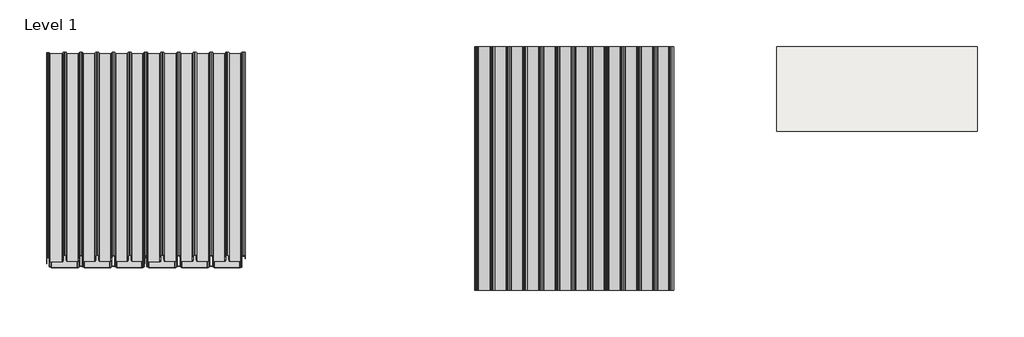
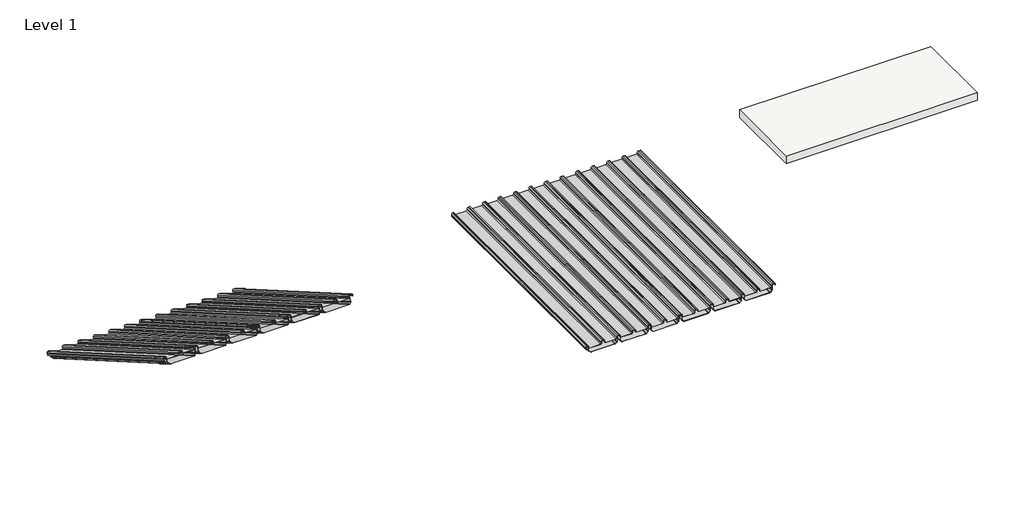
# One storey: 4 plates, 1 roof.
"""IFC4 building model written with IfcOpenShell, lengths in millimetres."""

from ifc_helpers import new_model, si_unit, origin, origin_with_axes, place, context, project, spatial, polyline, outline, extrude, transform, mapped, element, save
from components import panel_gip_flatstanding4c100x8_9774ab52, panel_gip_flatstanding4c100x8_aa8a2414, panel_gip_flatstanding4c100x8_da18e8ea

model = new_model("IFC4")

# Units and contexts
model_context = context("Model", 3, world=origin())
ifc_project = project(units=[si_unit("LENGTHUNIT", "METRE", prefix="MILLI")], contexts=[model_context])

# Site, building, storey
site = spatial("IfcSite", under=ifc_project)
building = spatial("IfcBuilding", under=site)
storey = spatial("IfcBuildingStorey", under=building, Name="Level 1", Elevation=0.0)

# Plates
placement = place(None, origin())
panel_gip_flatstanding4c100x8_shape = panel_gip_flatstanding4c100x8_9774ab52(model_context)
element("IfcPlate", 1, ObjectType="Panel_GIP_FlatStanding_4C_100X8_Exiplast : Panel GIP FlatStanding4C100X8", at=placement, inside=storey, context=model_context, shape_type="MappedRepresentation", body=[
    mapped(panel_gip_flatstanding4c100x8_shape, transform((-11547.6145179, 10196.9711751, 0.0), x_axis=(-1.0, 0.0, 0.0), y_axis=(0.0, -0.49999999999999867, -0.8660254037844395), z_axis=(0.0, -0.8660254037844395, 0.49999999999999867))),
])
panel_gip_flatstanding4c100x8_2_shape = panel_gip_flatstanding4c100x8_aa8a2414(model_context)
element("IfcPlate", 2, ObjectType="Panel_GIP_FlatStanding_4C_100X8_Exiplast : Panel GIP FlatStanding4C100X8", at=placement, inside=storey, context=model_context, shape_type="MappedRepresentation", body=[
    mapped(panel_gip_flatstanding4c100x8_2_shape, transform((-12562.1145179, 10196.9711751, 0.0), x_axis=(-1.0, 0.0, 0.0), y_axis=(0.0, -0.49999999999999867, -0.8660254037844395), z_axis=(0.0, -0.8660254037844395, 0.49999999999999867))),
])
element("IfcPlate", 3, ObjectType="Panel_GIP_FlatStanding_4C_100X8_Exiplast : Panel GIP FlatStanding4C100X8", at=placement, inside=storey, context=model_context, shape_type="MappedRepresentation", body=[
    mapped(panel_gip_flatstanding4c100x8_shape, transform((-7158.6457498, 10256.2120055, 0.0), x_axis=(-1.0, 0.0, 0.0), y_axis=(0.0, 0.0, -1.0), z_axis=(0.0, -1.0, 0.0))),
])
panel_gip_flatstanding4c100x8_3_shape = panel_gip_flatstanding4c100x8_da18e8ea(model_context)
element("IfcPlate", 4, ObjectType="Panel_GIP_FlatStanding_4C_100X8_Exiplast : Panel GIP FlatStanding4C100X8", at=placement, inside=storey, context=model_context, shape_type="MappedRepresentation", body=[
    mapped(panel_gip_flatstanding4c100x8_3_shape, transform((-8173.6457498, 10256.2120055, 0.0), x_axis=(-1.0, 0.0, 0.0), y_axis=(0.0, 0.0, -1.0), z_axis=(0.0, -1.0, 0.0))),
])

# Roof
element("IfcRoof", 5, ObjectType="Panel_GIP_FlatStanding_4C_100X8_Exiplast", at=placement, inside=storey, context=model_context, shape_type="SweptSolid", body=[
    extrude(outline(polyline([(-5576.6457497, 10256.2120055), (-3520.6457497, 10256.2120055), (-3520.6457497, 9390.1866017), (-5576.6457497, 9390.1866017), (-5576.6457497, 10256.2120055)])), origin_with_axes(), (0.0, 0.0, 1.0), 87.0),
])

save(model, "model.ifc")
